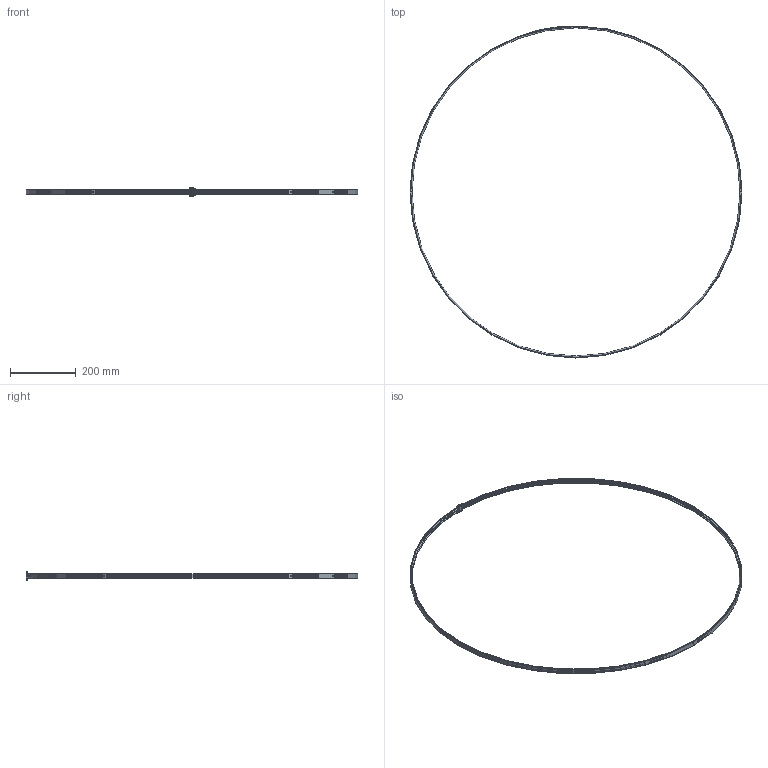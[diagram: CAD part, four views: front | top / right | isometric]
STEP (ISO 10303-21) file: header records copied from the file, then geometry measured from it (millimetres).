
FILE_DESCRIPTION (( 'STEP AP214' ), '1' );
FILE_NAME ('FlexIN_1m_Hub_diameter.STEP', '2024-10-02T14:08:26', ( '' ), ( '' ), 'SwSTEP 2.0', 'SolidWorks 2022', '' );
FILE_SCHEMA (( 'AUTOMOTIVE_DESIGN' ));
Length unit declared in the file: millimetre
Products named in the file (1): FlexIN_1m_Hub_diameter
Bounding box: 1010.7 x 1010.7 x 25.5 mm (x, y, z)
Volume: 155985.2 mm3; surface area: 495615.5 mm2
Topology: 8 solids, 8 shells, 914 faces, 2201 edges, 1428 vertices
Faces by surface type: bspline 292, cylinder 283, plane 231, cone 72, torus 36
Entity records: 70567 total; most frequent: CARTESIAN_POINT 41913, ORIENTED_EDGE 4394, DIRECTION 2800, EDGE_CURVE 2197, VERTEX_POINT 1428, AXIS2_PLACEMENT_3D 1093, EDGE_LOOP 1055, B_SPLINE_CURVE_WITH_KNOTS 929
